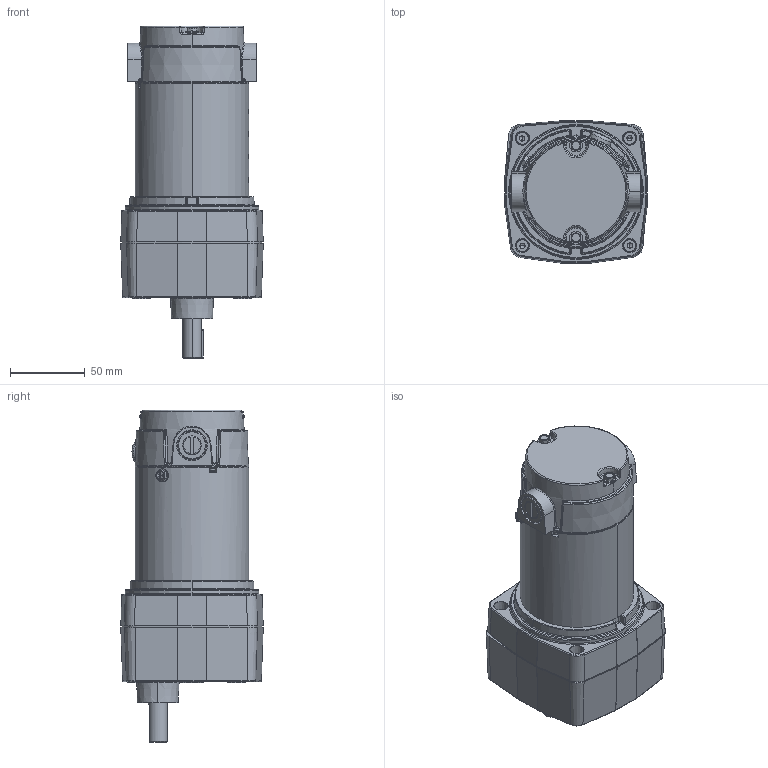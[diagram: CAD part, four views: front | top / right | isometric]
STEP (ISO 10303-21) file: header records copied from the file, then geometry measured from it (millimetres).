
FILE_DESCRIPTION (( 'STEP AP203' ), '1' );
FILE_NAME ('M1030957-M1125003_Rev00.STEP', '2017-12-11T09:42:10', ( '' ), ( '' ), 'SwSTEP 2.0', 'SolidWorks 2015', '' );
FILE_SCHEMA (( 'CONFIG_CONTROL_DESIGN' ));
Length unit declared in the file: inch
Products named in the file (1): M1030957-M1125003_Rev00
Bounding box: 95.25 x 95.25 x 222 mm (x, y, z)
Volume: 437624.5 mm3; surface area: 179953.1 mm2
Topology: 25 solids, 25 shells, 2768 faces, 6540 edges, 3880 vertices
Faces by surface type: bspline 619, plane 612, cylinder 593, cone 418, torus 362, sphere 164
Entity records: 98551 total; most frequent: CARTESIAN_POINT 38656, ORIENTED_EDGE 12982, DIRECTION 12029, EDGE_CURVE 6491, AXIS2_PLACEMENT_3D 4981, VERTEX_POINT 3880, EDGE_LOOP 2935, CIRCLE 2831
